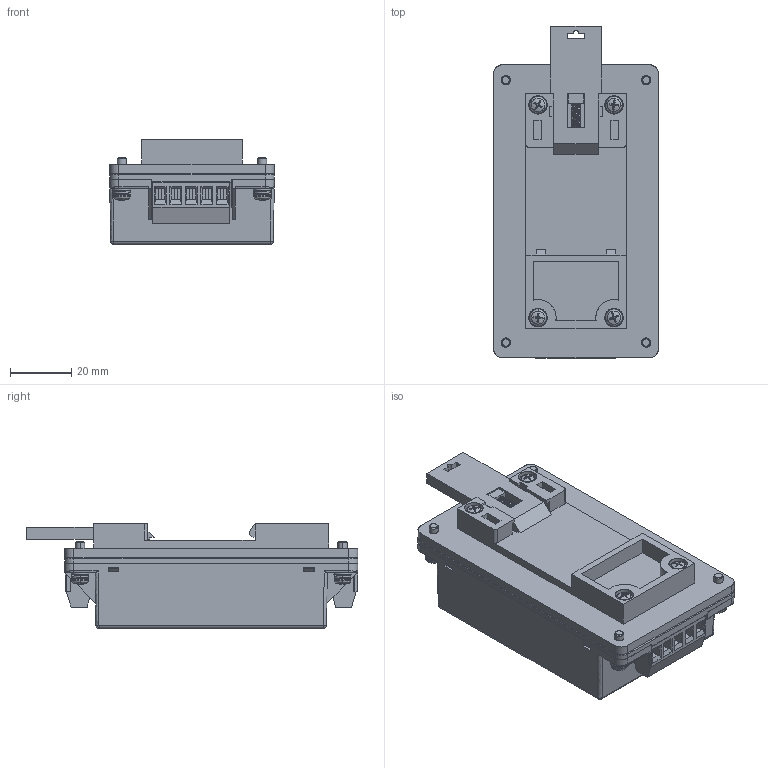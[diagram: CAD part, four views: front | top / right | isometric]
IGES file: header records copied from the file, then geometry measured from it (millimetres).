
Start section: SolidWorks IGES file using analytic representation for surfaces
Global section: file name: C:\Users\ksmith.XPNA\Desktop\DTE20 DIN\DTE20-D.IGS; native system: SolidWorks 2016; preprocessor: SolidWorks 2016; author: ksmith; date: 170110.102618; units: inch
Bounding box: 54 x 108.76 x 34.3 mm (x, y, z)
Surface area: 57385.4 mm2 (no closed solid volume)
Topology: 0 solids, 0 shells, 1312 faces, 14413 edges, 14391 vertices
Faces by surface type: bspline 831, revolution 481
